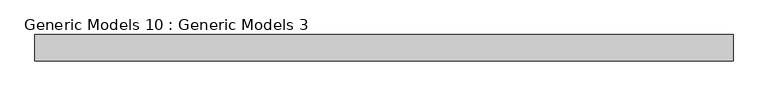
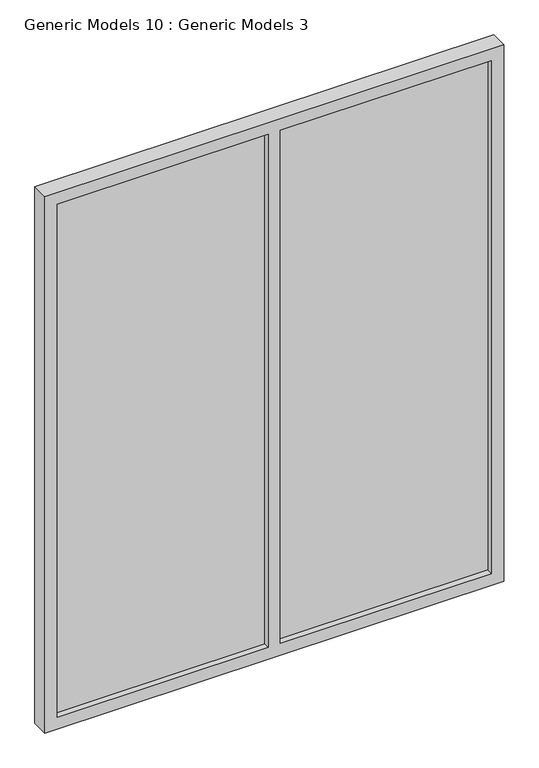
"""IFC4 building model written with IfcOpenShell, lengths in millimetres: proxy geometry, Generic Models 10 : Generic Models 3."""

from ifc_helpers import new_model, si_unit, frame, origin, place, context, project, spatial, polyline, outline, extrude, source, transform, mapped, element, save


def generic_models_10_generic_models_3_9e2f4020(model_context):
    return source(origin(), model_context, "Body", "SweptSolid", [
        extrude(outline(polyline([(-10214.3355497, -3824.0449025), (-11068.5171482, -3824.0449025), (-11068.5171482, -3793.2921331), (-10214.3355497, -3793.2921331), (-10214.3355497, -3824.0449025)])), frame((0.0, 0.0, 6753.5380954), z_axis=(0.0, 0.0, 1.0), x_axis=(1.0, 0.0, 0.0)), (0.0, 0.0, 1.0), 2196.4619046),
        extrude(outline(polyline([(-9310.1539512, -3824.0449025), (-10164.3355497, -3824.0449025), (-10164.3355497, -3793.2921331), (-9310.1539512, -3793.2921331), (-9310.1539512, -3824.0449025)])), frame((0.0, 0.0, 6753.5380954), z_axis=(0.0, 0.0, 1.0), x_axis=(1.0, 0.0, 0.0)), (0.0, 0.0, 1.0), 2196.4619046),
        extrude(outline(polyline([(6703.5380954, -9260.1539512), (9000.0, -9260.1539512), (9000.0, -11118.5171482), (6703.5380954, -11118.5171482), (6703.5380954, -9260.1539512)]), holes=[polyline([(6753.5380954, -9310.1539512), (6753.5380954, -10164.3355497), (8950.0, -10164.3355497), (8950.0, -9310.1539512), (6753.5380954, -9310.1539512)]), polyline([(8950.0, -10214.3355497), (6753.5380954, -10214.3355497), (6753.5380954, -11068.5171482), (8950.0, -11068.5171482), (8950.0, -10214.3355497)])]), frame((0.0, -3849.4449025, 0.0), z_axis=(0.0, 1.0, 0.0), x_axis=(0.0, 0.0, 1.0)), (0.0, 0.0, 1.0), 69.85),
    ])


if __name__ == "__main__":
    model = new_model("IFC4")
    model_context = context("Model", 3, world=origin())
    ifc_project = project(units=[si_unit("LENGTHUNIT", "METRE", prefix="MILLI")], contexts=[model_context])
    site = spatial("IfcSite", under=ifc_project)
    building = spatial("IfcBuilding", under=site)
    placement = place(None, origin())
    generic_models_10_generic_models_3_shape = generic_models_10_generic_models_3_9e2f4020(model_context)
    element("IfcBuildingElementProxy", 1, Name="Generic Models 10 : Generic Models 3", ObjectType="Generic Models 10 : Generic Models 3", at=placement, inside=building, context=model_context, shape_type="MappedRepresentation", body=[
        mapped(generic_models_10_generic_models_3_shape, transform((0.0, 0.0, 0.0), x_axis=(1.0, 0.0, 0.0), y_axis=(0.0, 1.0, 0.0), z_axis=(0.0, 0.0, 1.0))),
    ])
    save(model, "model.ifc")
